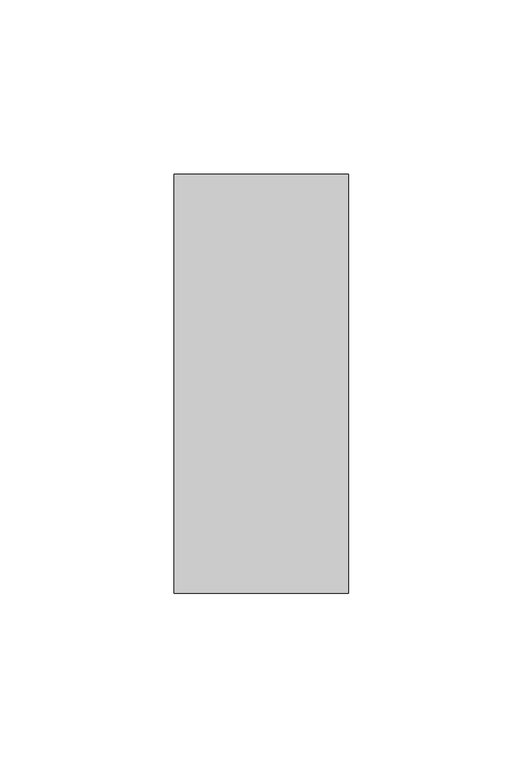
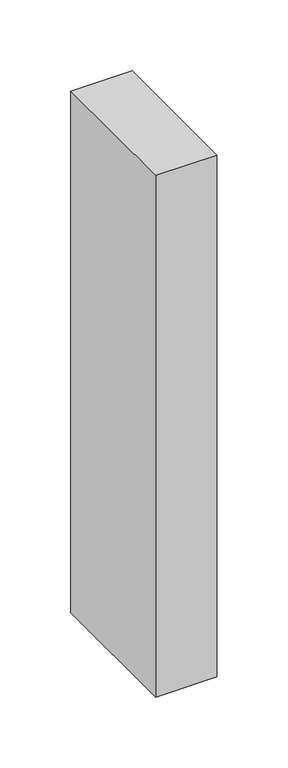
"""IFC4 building model written with IfcOpenShell, lengths in millimetres: member geometry, Прямоугольный импост : 50х120 мм."""

from ifc_helpers import new_model, si_unit, frame, origin, place, context, project, spatial, polyline, outline, extrude, source, transform, mapped, element, save


def member_e695081a(model_context):
    return source(origin(), model_context, "Body", "SweptSolid", [
        extrude(outline(polyline([(25.0, 60.0), (25.0, -60.0), (-25.0, -60.0), (-25.0, 60.0), (25.0, 60.0)])), frame((0.0, 0.0, -450.0), z_axis=(0.0, 0.0, 1.0), x_axis=(1.0, 0.0, 0.0)), (0.0, 0.0, 1.0), 450.0),
    ])


if __name__ == "__main__":
    model = new_model("IFC4")
    model_context = context("Model", 3, world=origin())
    ifc_project = project(units=[si_unit("LENGTHUNIT", "METRE", prefix="MILLI")], contexts=[model_context])
    site = spatial("IfcSite", under=ifc_project)
    building = spatial("IfcBuilding", under=site)
    placement = place(None, origin())
    member_shape = member_e695081a(model_context)
    element("IfcMember", 1, ObjectType="Прямоугольный импост : 50х120 мм", at=placement, inside=building, context=model_context, shape_type="MappedRepresentation", body=[
        mapped(member_shape, transform((0.0, 0.0, 0.0), x_axis=(1.0, 0.0, 0.0), y_axis=(0.0, 1.0, 0.0), z_axis=(0.0, 0.0, 1.0))),
    ])
    save(model, "model.ifc")
